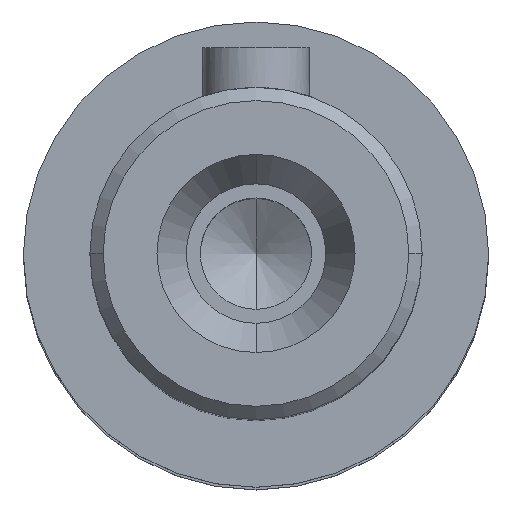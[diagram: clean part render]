
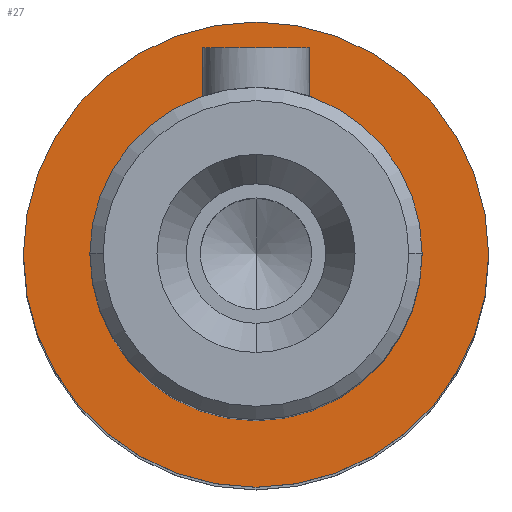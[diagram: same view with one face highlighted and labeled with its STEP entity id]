
A CAD part, top view. The second image highlights one B-rep face of the part: STEP entity #27.
In plain terms, the highlighted planar face has unit normal (0, 0, 1) as drawn and (1, 0, 0) by its records, which use the part's own axes.
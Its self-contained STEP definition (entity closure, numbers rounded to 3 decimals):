
#27=ADVANCED_FACE('',(#66,#54),#469,.T.);
#54=FACE_BOUND('',#103,.T.);
#66=FACE_OUTER_BOUND('',#102,.T.);
#102=EDGE_LOOP('',(#166,#167));
#103=EDGE_LOOP('',(#168,#169));
#166=ORIENTED_EDGE('',*,*,#308,.F.);
#167=ORIENTED_EDGE('',*,*,#269,.F.);
#168=ORIENTED_EDGE('',*,*,#297,.F.);
#169=ORIENTED_EDGE('',*,*,#258,.F.);
#258=EDGE_CURVE('',#423,#445,#320,.T.);
#269=EDGE_CURVE('',#431,#453,#327,.T.);
#297=EDGE_CURVE('',#445,#423,#340,.T.);
#308=EDGE_CURVE('',#453,#431,#347,.T.);
#320=TRIMMED_CURVE($,#354,(#966),(#967),.T.,.CARTESIAN.);
#327=TRIMMED_CURVE($,#361,(#995),(#996),.T.,.CARTESIAN.);
#340=TRIMMED_CURVE($,#374,(#1076),(#1077),.T.,.CARTESIAN.);
#347=TRIMMED_CURVE($,#381,(#1105),(#1106),.T.,.CARTESIAN.);
#354=CIRCLE('',#694,12.5);
#361=CIRCLE('',#701,17.5);
#374=CIRCLE('',#714,12.5);
#381=CIRCLE('',#721,17.5);
#423=VERTEX_POINT('',#925);
#431=VERTEX_POINT('',#933);
#445=VERTEX_POINT('',#947);
#453=VERTEX_POINT('',#955);
#469=PLANE('',#677);
#677=AXIS2_PLACEMENT_3D('',#843,#743,$);
#694=AXIS2_PLACEMENT_3D($,#965,#760,#761);
#701=AXIS2_PLACEMENT_3D($,#994,#774,#775);
#714=AXIS2_PLACEMENT_3D($,#1075,#800,#801);
#721=AXIS2_PLACEMENT_3D($,#1104,#814,#815);
#743=DIRECTION('',(1.,0.,0.));
#760=DIRECTION('',(1.,0.,0.));
#761=DIRECTION('',(0.,0.,-1.));
#774=DIRECTION('',(-1.,0.,0.));
#775=DIRECTION('',(0.,0.,-1.));
#800=DIRECTION('',(1.,0.,0.));
#801=DIRECTION('',(0.,0.,1.));
#814=DIRECTION('',(-1.,0.,0.));
#815=DIRECTION('',(0.,0.,1.));
#843=CARTESIAN_POINT('',(59.5,-21.06,-21.06));
#925=CARTESIAN_POINT('',(59.5,0.,-12.5));
#933=CARTESIAN_POINT('',(59.5,0.,-17.5));
#947=CARTESIAN_POINT('',(59.5,0.,12.5));
#955=CARTESIAN_POINT('',(59.5,0.,17.5));
#965=CARTESIAN_POINT('',(59.5,0.,0.));
#966=CARTESIAN_POINT('',(59.5,0.,-12.5));
#967=CARTESIAN_POINT('',(59.5,0.,12.5));
#994=CARTESIAN_POINT('',(59.5,0.,0.));
#995=CARTESIAN_POINT('',(59.5,0.,-17.5));
#996=CARTESIAN_POINT('',(59.5,0.,17.5));
#1075=CARTESIAN_POINT('',(59.5,0.,0.));
#1076=CARTESIAN_POINT('',(59.5,0.,12.5));
#1077=CARTESIAN_POINT('',(59.5,0.,-12.5));
#1104=CARTESIAN_POINT('',(59.5,0.,0.));
#1105=CARTESIAN_POINT('',(59.5,0.,17.5));
#1106=CARTESIAN_POINT('',(59.5,0.,-17.5));
